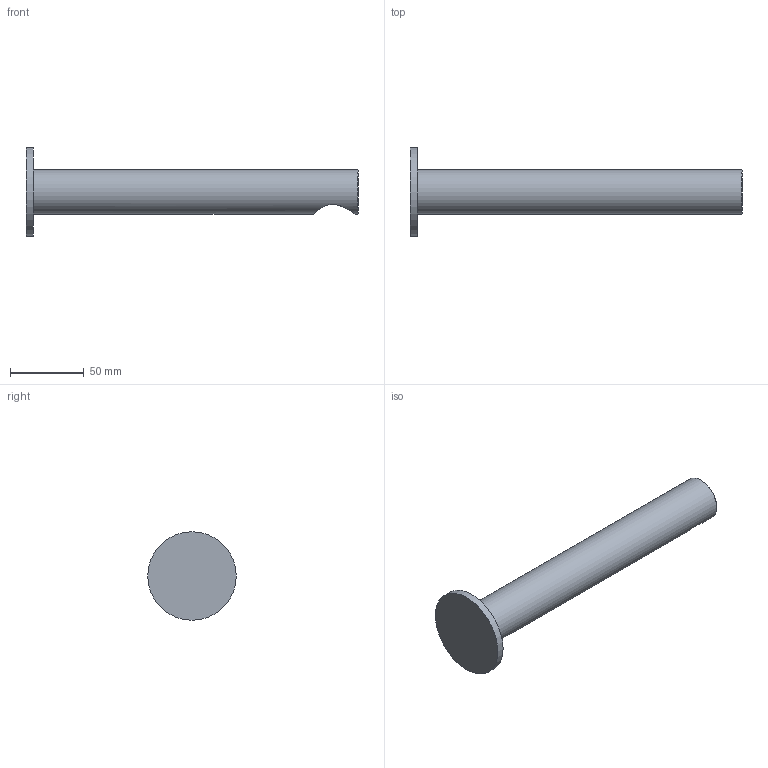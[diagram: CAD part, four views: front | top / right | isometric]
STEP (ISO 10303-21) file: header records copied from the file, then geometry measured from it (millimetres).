
FILE_DESCRIPTION(/* description */ (''),/* implementation_level */ '2;1');
FILE_NAME(/* name */ '3D_TVW10612A153_Dawn Abdeckung am Auslauf fehlt.step',/* time_stamp */ '2023-02-22T17:23:14+01:00',/* author */ (''),/* organization */ (''),/* preprocessor_version */ 'ST-DEVELOPER v19.2',/* originating_system */ 'Autodesk Translation Framework v11.17.0.187',/* authorisation */ '');
FILE_SCHEMA (('AUTOMOTIVE_DESIGN { 1 0 10303 214 3 1 1 }'));
Length unit declared in the file: millimetre
Products named in the file (5): (Nicht gespeichert); 16002313_ASM; 12000729; Auslauf5_reduziert; Komponente7
Assembly tree (4 placements, depth 3):
  (Nicht gespeichert)
    16002313_ASM
      12000729
    Auslauf5_reduziert
    Komponente7
Bounding box: 225 x 60 x 60 mm (x, y, z)
Volume: 164959.5 mm3; surface area: 30519.1 mm2
Topology: 3 solids, 3 shells, 213 faces, 454 edges, 249 vertices
Faces by surface type: cylinder 70, plane 40, bspline 36, sphere 32, torus 32, cone 3
Full cylindrical faces by diameter (mm): 20.2 x1, 21.8 x1, 24 x1, 24.25 x1, 30 x1, 60 x1
Entity records: 8058 total; most frequent: CARTESIAN_POINT 3464, DIRECTION 1011, ORIENTED_EDGE 908, EDGE_CURVE 454, AXIS2_PLACEMENT_3D 437, VERTEX_POINT 249, CIRCLE 248, EDGE_LOOP 215
